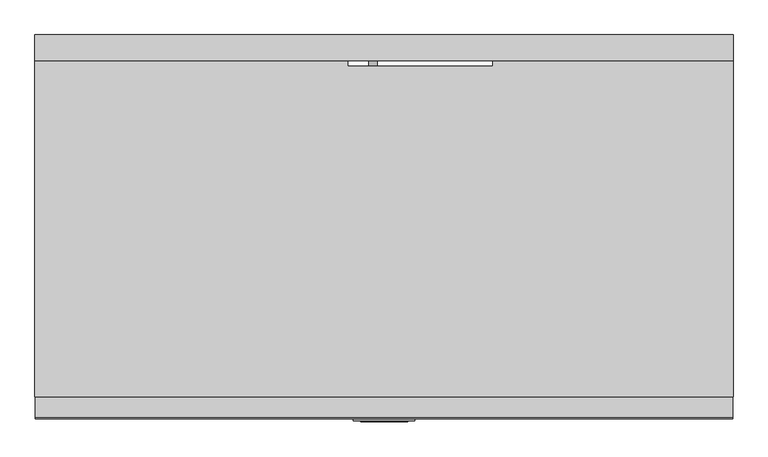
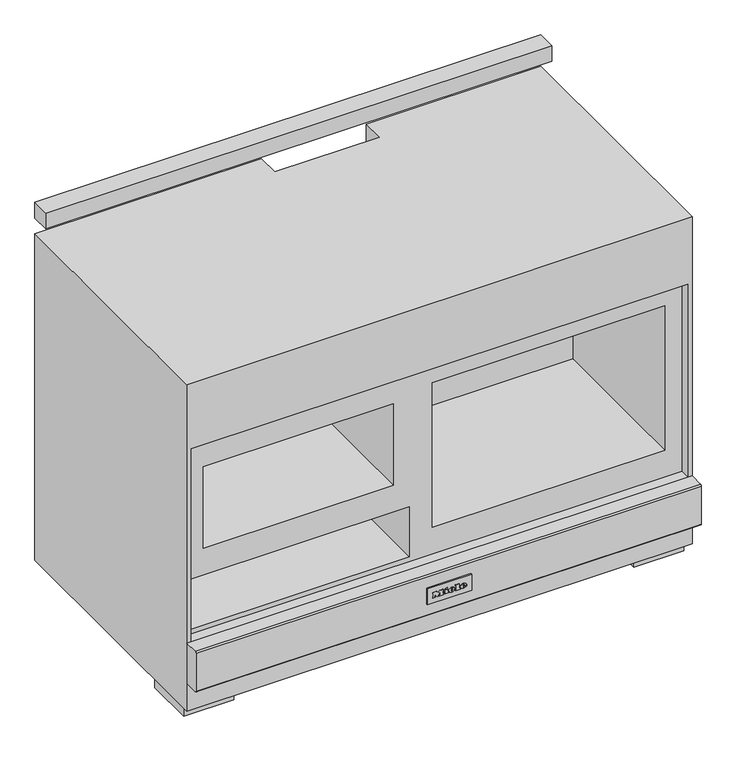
"""IFC4 building model written with IfcOpenShell, lengths in millimetres: proxy geometry, 11791690_USA_HR1955-3G_EDST-CLST : 25195581_USA_11791690_HR1955-3G_EDST-CLST."""

import ifcopenshell
import ifcopenshell.guid

model = None  # the IFC model being written
_history = None  # IfcOwnerHistory: only IFC2X3 demands one
_inside = {}  # id of a spatial element -> (the spatial element, [elements in it])
_under = {}  # id of a project, library or spatial element -> (it, [spatial elements below it])
_declared = {}  # id of a project -> (the project, [libraries it declares])
_typed = {}  # id of a type object -> (the type object, [elements of that type])
_made_of = {}  # id of a material, layer set ... -> (it, [elements and type objects made of it])


def new_model(schema):
    """Start an empty IFC model of exactly this schema.

    Asked for "IFC4X3", IfcOpenShell would pick the latest addendum, in which some entities
    have other attributes; the version numbers below select the first issue.
    IFC2X3 requires an IfcOwnerHistory on every rooted entity: one is made here for all.
    """
    global model, _history
    if schema == "IFC4X3":
        model = ifcopenshell.file(schema_version=(4, 3, 0, 0))
    else:
        model = ifcopenshell.file(schema=schema)
    _inside.clear()
    _under.clear()
    _declared.clear()
    _typed.clear()
    _made_of.clear()
    _history = None
    if model.schema == "IFC2X3":
        org = make("IfcOrganization", Name="unknown")
        user = make(
            "IfcPersonAndOrganization",
            ThePerson=make("IfcPerson", FamilyName="unknown"),
            TheOrganization=org,
        )
        app = make(
            "IfcApplication",
            ApplicationDeveloper=org,
            Version="unknown",
            ApplicationFullName="unknown",
            ApplicationIdentifier="unknown",
        )
        _history = make(
            "IfcOwnerHistory",
            OwningUser=user,
            OwningApplication=app,
            ChangeAction="ADDED",
            CreationDate=0,
        )
    return model


def make(cls, **values):
    """One entity of the class cls with the attributes given. An attribute that is None is left unset."""
    return model.create_entity(
        cls, **{name: value for name, value in values.items() if value is not None}
    )


def rooted(cls, **values):
    """An entity with a GlobalId (a new one), such as an element, a storey or a relation."""
    return make(cls, GlobalId=ifcopenshell.guid.new(), OwnerHistory=_history, **values)


def si_unit(unit_type, name, prefix=None):
    """IfcSIUnit, for example si_unit("LENGTHUNIT", "METRE", prefix="MILLI")."""
    return make("IfcSIUnit", UnitType=unit_type, Prefix=prefix, Name=name)


def assignment(units):
    """IfcUnitAssignment: the units of a project."""
    return None if units is None else make("IfcUnitAssignment", Units=units)


def point(xyz):
    """IfcCartesianPoint."""
    return None if xyz is None else make("IfcCartesianPoint", Coordinates=xyz)


def direction(xyz):
    """IfcDirection."""
    return None if xyz is None else make("IfcDirection", DirectionRatios=xyz)


def frame(location, z_axis=None, x_axis=None):
    """IfcAxis2Placement3D, a coordinate frame: its origin and axes. An axis left out is left unset."""
    return make(
        "IfcAxis2Placement3D",
        Location=point(location),
        Axis=direction(z_axis),
        RefDirection=direction(x_axis),
    )


def frame_2d(location, x_axis=None):
    """IfcAxis2Placement2D, a coordinate frame in the plane: its origin and x axis."""
    return make(
        "IfcAxis2Placement2D", Location=point(location), RefDirection=direction(x_axis)
    )


def origin():
    """The frame at (0, 0, 0) with its axes left unset."""
    return frame((0.0, 0.0, 0.0))


def origin_with_axes():
    """The frame at (0, 0, 0) with the z axis (0, 0, 1) and the x axis (1, 0, 0) written out."""
    return frame((0.0, 0.0, 0.0), z_axis=(0.0, 0.0, 1.0), x_axis=(1.0, 0.0, 0.0))


def place(relative_to, where):
    """IfcLocalPlacement: puts the frame where relative to a parent placement (None: the world)."""
    return make(
        "IfcLocalPlacement", PlacementRelTo=relative_to, RelativePlacement=where
    )


def context(
    kind, dimensions, precision=None, world=None, true_north=None, identifier=None
):
    """IfcGeometricRepresentationContext, for example the 3D "Model" context."""
    return make(
        "IfcGeometricRepresentationContext",
        ContextIdentifier=identifier,
        ContextType=kind,
        CoordinateSpaceDimension=dimensions,
        Precision=precision,
        WorldCoordinateSystem=world,
        TrueNorth=true_north,
    )


def project(units=None, contexts=None):
    """IfcProject with its units and contexts."""
    return rooted(
        "IfcProject",
        Name="project",
        RepresentationContexts=contexts,
        UnitsInContext=assignment(units),
    )


def spatial(cls, under=None, at=None, **own):
    """A site, building, storey or space (cls), placed at a placement, below another one or the project."""
    s = rooted(cls, ObjectPlacement=at, **own)
    if under is not None:
        _under.setdefault(under.id(), (under, []))[1].append(s)
    return s


def polyline(points):
    """IfcPolyline through the points."""
    return make("IfcPolyline", Points=[point(p) for p in points])


def circle_curve(where, radius):
    """IfcCircle in the frame where."""
    return make("IfcCircle", Position=where, Radius=radius)


def ellipse_curve(where, semi_axis1, semi_axis2):
    """IfcEllipse in the frame where."""
    return make(
        "IfcEllipse", Position=where, SemiAxis1=semi_axis1, SemiAxis2=semi_axis2
    )


def trimmed(basis, trim1, trim2, sense, master):
    """IfcTrimmedCurve: the piece of a basis curve between two trims."""
    return make(
        "IfcTrimmedCurve",
        BasisCurve=basis,
        Trim1=trim1,
        Trim2=trim2,
        SenseAgreement=sense,
        MasterRepresentation=master,
    )


def segment(curve, same_sense, transition):
    """IfcCompositeCurveSegment."""
    return make(
        "IfcCompositeCurveSegment",
        Transition=transition,
        SameSense=same_sense,
        ParentCurve=curve,
    )


def composite_curve(segments, self_intersect=None):
    """IfcCompositeCurve: segments joined end to end."""
    return make("IfcCompositeCurve", Segments=segments, SelfIntersect=self_intersect)


def outline(outer, holes=None, kind="AREA"):
    """IfcArbitraryClosedProfileDef: a profile drawn as a closed curve; with holes, ...WithVoids."""
    if holes is None:
        return make("IfcArbitraryClosedProfileDef", ProfileType=kind, OuterCurve=outer)
    return make(
        "IfcArbitraryProfileDefWithVoids",
        ProfileType=kind,
        OuterCurve=outer,
        InnerCurves=holes,
    )


def extrude(swept, where, along, depth):
    """IfcExtrudedAreaSolid: the profile swept, set in the frame where, extruded along a direction by depth."""
    return make(
        "IfcExtrudedAreaSolid",
        SweptArea=swept,
        Position=where,
        ExtrudedDirection=direction(along),
        Depth=depth,
    )


def faces_of(points, faces, orient=None, outer=None):
    """IfcFace entities. A face is a list of loops; a loop is a list of indices into points, from 0.

    orient and outer hold one flag for each loop. By default every Orientation is true, the
    first loop of a face is its IfcFaceOuterBound and the others are IfcFaceBound.
    """
    made = []
    for i, loops in enumerate(faces):
        bounds = []
        for j, loop in enumerate(loops):
            is_outer = j == 0 if outer is None else outer[i][j]
            bounds.append(
                make(
                    "IfcFaceOuterBound" if is_outer else "IfcFaceBound",
                    Bound=make("IfcPolyLoop", Polygon=[points[k] for k in loop]),
                    Orientation=True if orient is None else orient[i][j],
                )
            )
        made.append(make("IfcFace", Bounds=bounds))
    return made


def faceted_brep(points, faces, orient=None, outer=None, voids=None):
    """IfcFacetedBrep: a solid bounded by flat faces; with voids (closed shells), ...WithVoids."""
    shared = [point(p) for p in points]
    hull = make("IfcClosedShell", CfsFaces=faces_of(shared, faces, orient, outer))
    if voids is None:
        return make("IfcFacetedBrep", Outer=hull)
    return make(
        "IfcFacetedBrepWithVoids",
        Outer=hull,
        Voids=[
            make(cls, CfsFaces=faces_of(shared, fs, o, b)) for cls, fs, o, b in voids
        ],
    )


def shape(context_of_items, identifier, shape_type, items):
    """IfcShapeRepresentation: the items that make up one representation, for example the "Body"."""
    return make(
        "IfcShapeRepresentation",
        ContextOfItems=context_of_items,
        RepresentationIdentifier=identifier,
        RepresentationType=shape_type,
        Items=items,
    )


def source(mapping_origin, context_of_items, identifier, shape_type, items):
    """IfcRepresentationMap: a shape defined once, which mapped items show again and again."""
    return make(
        "IfcRepresentationMap",
        MappingOrigin=mapping_origin,
        MappedRepresentation=shape(context_of_items, identifier, shape_type, items),
    )


def transform(
    local_origin,
    x_axis=None,
    y_axis=None,
    z_axis=None,
    scale=None,
    scale2=None,
    scale3=None,
    uniform=True,
):
    """IfcCartesianTransformationOperator3D, or its non-uniform kind. x_axis, y_axis, z_axis: its Axis1, 2, 3."""
    if uniform:
        return make(
            "IfcCartesianTransformationOperator3D",
            Axis1=direction(x_axis),
            Axis2=direction(y_axis),
            LocalOrigin=point(local_origin),
            Scale=scale,
            Axis3=direction(z_axis),
        )
    return make(
        "IfcCartesianTransformationOperator3DnonUniform",
        Axis1=direction(x_axis),
        Axis2=direction(y_axis),
        LocalOrigin=point(local_origin),
        Scale=scale,
        Axis3=direction(z_axis),
        Scale2=scale2,
        Scale3=scale3,
    )


def mapped(mapping_source, mapping_target):
    """IfcMappedItem: shows the shape of a source again, moved by a transform."""
    return make(
        "IfcMappedItem", MappingSource=mapping_source, MappingTarget=mapping_target
    )


def made_of(thing, what):
    """Note that an element or type object is made of a material, layer set ...; save() writes the relation."""
    if what is not None:
        _made_of.setdefault(what.id(), (what, []))[1].append(thing)
    return thing


def element(
    cls,
    number,
    at=None,
    inside=None,
    cuts=None,
    type_object=None,
    material=None,
    context=None,
    identifier="Body",
    shape_type=None,
    held_by="IfcProductDefinitionShape",
    body=None,
    shapes=None,
    **own,
):
    """One element of the class cls, such as IfcWall. Its Tag is "e" and its number.

    at: its placement. inside: the storey or other place that contains it. cuts: it is an
    opening in that element (IfcRelVoidsElement). A single representation is given by context,
    identifier, shape_type and body (its items); several are given by shapes. held_by: the class
    of the entity that holds the representations. save() writes the other relations.
    """
    e = rooted(cls, Tag="e%d" % number, ObjectPlacement=at, **own)
    if body is not None:
        shapes = [shape(context, identifier, shape_type, body)]
    if shapes is not None:
        e.Representation = make(held_by, Representations=shapes)
    if inside is not None:
        _inside.setdefault(inside.id(), (inside, []))[1].append(e)
    if cuts is not None:
        rooted(
            "IfcRelVoidsElement", RelatingBuildingElement=cuts, RelatedOpeningElement=e
        )
    if type_object is not None:
        _typed.setdefault(type_object.id(), (type_object, []))[1].append(e)
    return made_of(e, material)


def aggregate(whole, parts):
    """IfcRelAggregates: a whole, such as a stair, and the parts it consists of."""
    return rooted("IfcRelAggregates", RelatingObject=whole, RelatedObjects=parts)


def save(model, path):
    """Write the relations noted so far, then the file.

    IfcRelAggregates (storeys below a building ...), IfcRelContainedInSpatialStructure (elements
    in a storey), IfcRelDefinesByType, IfcRelAssociatesMaterial and IfcRelDeclares: one each for
    every whole, place, type object, material and project.
    """
    for whole, parts in _under.values():
        aggregate(whole, parts)
    for where, things in _inside.values():
        rooted(
            "IfcRelContainedInSpatialStructure",
            RelatedElements=things,
            RelatingStructure=where,
        )
    for kind, things in _typed.values():
        rooted("IfcRelDefinesByType", RelatedObjects=things, RelatingType=kind)
    for what, things in _made_of.values():
        rooted("IfcRelAssociatesMaterial", RelatedObjects=things, RelatingMaterial=what)
    for by, libraries in _declared.values():
        rooted("IfcRelDeclares", RelatingContext=by, RelatedDefinitions=libraries)
    model.write(path)


def plane_surface(at):
    """IfcPlane: the flat surface through the origin of the frame at, square to its z axis."""
    return make("IfcPlane", Position=at)


def cylinder_surface(at, radius):
    """IfcCylindricalSurface: all points at the distance radius from the z axis of the frame at."""
    return make("IfcCylindricalSurface", Position=at, Radius=radius)


def revolved_surface(curve, axis_point, axis_direction):
    """IfcSurfaceOfRevolution: the curve turned about the line through axis_point along axis_direction."""
    return make(
        "IfcSurfaceOfRevolution",
        SweptCurve=make("IfcArbitraryOpenProfileDef", ProfileType="CURVE", Curve=curve),
        AxisPosition=make("IfcAxis1Placement", Location=point(axis_point), Axis=direction(axis_direction)),
    )


def extruded_surface(curve, direction_of_extrusion, depth):
    """IfcSurfaceOfLinearExtrusion: the curve pushed along a direction by depth."""
    return make(
        "IfcSurfaceOfLinearExtrusion",
        SweptCurve=make("IfcArbitraryOpenProfileDef", ProfileType="CURVE", Curve=curve),
        ExtrudedDirection=direction(direction_of_extrusion),
        Depth=depth,
    )


def advanced_brep(points, edges, surfaces, faces):
    """IfcAdvancedBrep: a solid bounded by faces that lie on surfaces and meet in shared edges.

    An edge is (start, end): straight between two places in points (the first is 0);
    or (start, end, curve); or (start, end, curve, False) where it runs against its curve.
    A face is (place in surfaces, loops), or (place, loops, False) where it looks against
    its surface's normal. A loop lists edges by number (the first is 1), with a minus sign
    where the edge is run from its end to its start. The first loop is the outer one.
    """
    corners = [point(p) for p in points]
    vertices = [make("IfcVertexPoint", VertexGeometry=c) for c in corners]
    made = []
    for start, end, *more in edges:
        made.append(
            make(
                "IfcEdgeCurve",
                EdgeStart=vertices[start],
                EdgeEnd=vertices[end],
                EdgeGeometry=more[0] if more else make("IfcPolyline", Points=[corners[start], corners[end]]),
                SameSense=more[1] if len(more) > 1 else True,
            )
        )
    hull = []
    for where, loops, *sense in faces:
        bounds = []
        for j, loop in enumerate(loops):
            ring = [make("IfcOrientedEdge", EdgeElement=made[abs(k) - 1], Orientation=k > 0) for k in loop]
            bounds.append(
                make(
                    "IfcFaceOuterBound" if j == 0 else "IfcFaceBound",
                    Bound=make("IfcEdgeLoop", EdgeList=ring),
                    Orientation=True,
                )
            )
        hull.append(make("IfcAdvancedFace", Bounds=bounds, FaceSurface=surfaces[where], SameSense=sense[0] if sense else True))
    return make("IfcAdvancedBrep", Outer=make("IfcClosedShell", CfsFaces=hull))


def specialty_equipment_3a3c5f90(model_context):
    return source(origin(), model_context, "Body", "SolidModel", [
        extrude(outline(composite_curve([segment(polyline([(-511.5941465, -31.8216074), (-507.5193946, -31.8216074), (-507.5193946, -33.0727848), (-510.3300756, -33.0727848), (-510.3300756, -34.8953779), (-509.0547934, -35.5734575), (-507.3554891, -35.8730907)]), True, "CONTINUOUS"), segment(trimmed(circle_curve(frame_2d((-507.2763582, -32.1835188)), 3.6904203), [point((-507.3554891, -35.8730907))], [point((-503.5917956, -31.975672))], True, "CARTESIAN"), True, "CONTINUOUS"), segment(trimmed(circle_curve(frame_2d((-507.7742118, -32.2116028)), 4.1890654), [point((-503.5917956, -31.975672))], [point((-507.3924604, -28.0399683))], True, "CARTESIAN"), True, "CONTINUOUS"), segment(trimmed(circle_curve(frame_2d((-507.6434541, -30.7827322)), 2.7542243), [point((-507.3924604, -28.0399683))], [point((-509.7311401, -28.9862582))], True, "CARTESIAN"), True, "CONTINUOUS"), segment(polyline([(-509.7311401, -28.9862582), (-510.2913432, -30.1348449), (-511.4545959, -29.808521), (-510.7222817, -28.1459412)]), True, "CONTINUOUS"), segment(trimmed(circle_curve(frame_2d((-507.5056573, -31.3038983)), 4.5077007), [point((-510.7222817, -28.1459412))], [point((-507.3478593, -26.7989604))], False, "CARTESIAN"), True, "CONTINUOUS"), segment(trimmed(circle_curve(frame_2d((-507.5297107, -32.0029797)), 5.2071956), [point((-507.3478593, -26.7989604))], [point((-502.3225151, -32.0029797))], False, "CARTESIAN"), True, "CONTINUOUS"), segment(trimmed(circle_curve(frame_2d((-507.5187023, -31.9634409)), 5.1963376), [point((-502.3225151, -32.0029797))], [point((-507.5187023, -37.1597785))], False, "CARTESIAN"), True, "CONTINUOUS"), segment(polyline([(-507.5187023, -37.1597785), (-509.5821579, -36.7823822), (-511.5941465, -35.5734575), (-511.5941465, -31.8216074)]), True, "CONTINUOUS")], self_intersect=False)), frame((0.0, 0.0, 753.0), z_axis=(0.0, 0.0, 1.0), x_axis=(1.0, 0.0, 0.0)), (0.0, 0.0, 1.0), 1.0),
        extrude(outline(composite_curve([segment(polyline([(-633.0, 203.0), (-633.0, 100.0), (-668.0, 100.0)]), True, "CONTINUOUS"), segment(trimmed(circle_curve(frame_2d((-668.0, 103.0)), 3.0), [point((-668.0, 100.0))], [point((-671.0, 103.0))], False, "CARTESIAN"), True, "CONTINUOUS"), segment(polyline([(-671.0, 103.0), (-671.0, 200.0)]), True, "CONTINUOUS"), segment(trimmed(circle_curve(frame_2d((-668.0, 200.0)), 3.0), [point((-671.0, 200.0))], [point((-668.0, 203.0))], False, "CARTESIAN"), True, "CONTINUOUS"), segment(polyline([(-668.0, 203.0), (-633.0, 203.0)]), True, "CONTINUOUS")], self_intersect=False)), frame((-608.5, 0.0, 0.0), z_axis=(1.0, 0.0, 0.0), x_axis=(0.0, 1.0, 0.0)), (0.0, 0.0, 1.0), 1217.0),
        extrude(outline(polyline([(424.9261097, -43.2846028), (417.6553153, -43.2846028), (417.6553153, -42.0259878), (423.6324687, -42.0259878), (423.6324687, -39.0398896), (417.9699511, -39.0398896), (417.9699511, -37.7868997), (423.6324687, -37.7868997), (423.6324687, -34.484481), (417.5234692, -34.484481), (417.5234692, -33.223126), (424.9261097, -33.223126), (424.9261097, -43.2846028)])), frame((0.0, 0.0, 74.0), z_axis=(0.0, 0.0, 1.0), x_axis=(1.0, 0.0, 0.0)), (0.0, 0.0, 1.0), 1.0),
        extrude(outline(polyline([(415.5939455, -43.2781045), (409.4083542, -43.2781045), (409.4083542, -42.0259878), (414.4083542, -42.0259878), (414.4083542, -33.223126), (415.5939455, -33.223126), (415.5939455, -43.2781045)])), frame((0.0, 0.0, 74.0), z_axis=(0.0, 0.0, 1.0), x_axis=(1.0, 0.0, 0.0)), (0.0, 0.0, 1.0), 1.0),
        extrude(outline(composite_curve([segment(trimmed(circle_curve(frame_2d((417.5, -39.0)), 7.5), [point((417.5, -46.5))], [point((417.5, -31.5))], False, "CARTESIAN"), True, "CONTINUOUS"), segment(trimmed(circle_curve(frame_2d((417.5, -39.0)), 7.5), [point((417.5, -31.5))], [point((417.5, -46.5))], False, "CARTESIAN"), True, "CONTINUOUS")], self_intersect=False)), frame((0.0, 0.0, 75.0), z_axis=(0.0, 0.0, 1.0), x_axis=(1.0, 0.0, 0.0)), (0.0, 0.0, 1.0), 30.0),
        extrude(outline(composite_curve([segment(trimmed(circle_curve(frame_2d((-514.5, -32.0)), 7.5), [point((-522.0, -32.0))], [point((-507.0, -32.0))], False, "CARTESIAN"), True, "CONTINUOUS"), segment(trimmed(circle_curve(frame_2d((-514.5, -32.0)), 7.5), [point((-507.0, -32.0))], [point((-522.0, -32.0))], False, "CARTESIAN"), True, "CONTINUOUS")], self_intersect=False)), frame((0.0, 0.0, 754.0), z_axis=(0.0, 0.0, 1.0), x_axis=(1.0, 0.0, 0.0)), (0.0, 0.0, 1.0), 30.0),
        extrude(outline(polyline([(755.9900117, -20.0376107), (766.0405487, -17.3032463), (766.0405487, -18.6010309), (757.3952189, -20.6941056), (766.0411296, -23.1946617), (766.0411296, -25.0615338), (757.4117226, -27.5845612), (766.0419182, -29.665026), (766.0419182, -30.9626989), (755.9984871, -28.2244126), (755.9984871, -26.8735976), (764.8308623, -24.1286268), (755.9900117, -21.5716905), (755.9900117, -20.0376107)])), frame((0.0, -25.0, 0.0), z_axis=(0.0, 1.0, 0.0), x_axis=(0.0, 0.0, 1.0)), (0.0, 0.0, 1.0), 1.0),
        extrude(outline(polyline([(756.0, -8.9829639), (766.0509015, -8.9829639), (766.0509015, -10.2409127), (761.1386151, -10.2409127), (766.0475587, -15.3904554), (766.0475587, -17.1455728), (761.9164775, -12.8179994), (756.0, -17.3019347), (756.0, -15.7701694), (761.0664133, -11.9304743), (759.4465471, -10.2392234), (756.0, -10.2392234), (756.0, -8.9829639)])), frame((0.0, -25.0, 0.0), z_axis=(0.0, 1.0, 0.0), x_axis=(0.0, 0.0, 1.0)), (0.0, 0.0, 1.0), 1.0),
        extrude(outline(composite_curve([segment(trimmed(circle_curve(frame_2d((761.0, -19.5)), 7.5), [point((761.0, -12.0))], [point((761.0, -27.0))], False, "CARTESIAN"), True, "CONTINUOUS"), segment(trimmed(circle_curve(frame_2d((761.0, -19.5)), 7.5), [point((761.0, -27.0))], [point((761.0, -12.0))], False, "CARTESIAN"), True, "CONTINUOUS")], self_intersect=False)), frame((0.0, -55.0, 0.0), z_axis=(0.0, 1.0, 0.0), x_axis=(0.0, 0.0, 1.0)), (0.0, 0.0, 1.0), 30.0),
        faceted_brep([(-609.5, 0.0, 862.0), (-609.5, -633.0, 862.0), (609.5, -633.0, 862.0), (609.5, 0.0, 862.0), (189.5, 0.0, 862.0), (189.5, -55.0, 862.0), (-63.5, -55.0, 862.0), (-63.5, 0.0, 862.0), (609.5, 0.0, 30.0), (609.5, -633.0, 30.0), (-609.5, -633.0, 30.0), (-609.5, 0.0, 30.0), (-598.5, 0.0, 30.0), (-598.5, -77.0, 30.0), (598.5, -77.0, 30.0), (598.5, 0.0, 30.0), (598.5, 0.0, 105.0), (189.5, 0.0, 105.0), (-63.5, 0.0, 105.0), (-459.5, 0.0, 105.0), (-459.5, 0.0, 784.0), (-547.5, 0.0, 784.0), (-547.5, 0.0, 105.0), (-598.5, 0.0, 105.0), (598.5, -633.0, 695.0), (598.5, -633.0, 203.0), (-598.5, -633.0, 203.0), (-598.5, -633.0, 695.0), (598.5, -608.0, 695.0), (-598.5, -608.0, 695.0), (-598.5, -608.0, 203.0), (598.5, -608.0, 203.0), (557.5, -608.0, 639.0), (557.5, -608.0, 271.0), (-2.5, -608.0, 271.0), (-2.5, -608.0, 639.0), (-58.5, -608.0, 342.0), (-58.5, -608.0, 215.0), (-592.5, -608.0, 215.0), (-592.5, -608.0, 342.0), (-96.5, -608.0, 618.0), (-96.5, -608.0, 410.0), (-554.5, -608.0, 410.0), (-554.5, -608.0, 618.0), (557.5, -224.0, 639.0), (-2.5, -224.0, 639.0), (-2.5, -224.0, 271.0), (557.5, -224.0, 271.0), (-96.5, -235.0, 618.0), (-554.5, -235.0, 618.0), (-554.5, -235.0, 410.0), (-96.5, -235.0, 410.0), (-58.5, -95.0, 342.0), (-592.5, -95.0, 342.0), (-592.5, -95.0, 215.0), (-58.5, -95.0, 215.0), (-598.5, -77.0, 105.0), (598.5, -77.0, 105.0), (-547.5, -55.0, 105.0), (-459.5, -55.0, 105.0), (-63.5, -55.0, 105.0), (189.5, -55.0, 105.0), (-547.5, -55.0, 784.0), (-459.5, -55.0, 784.0)], [[[0, 1, 2, 3, 4, 5, 6, 7]], [[8, 9, 10, 11, 12, 13, 14, 15]], [[3, 8, 15, 16, 17, 4]], [[11, 0, 7, 18, 19, 20, 21, 22, 23, 12]], [[1, 0, 11, 10]], [[2, 1, 10, 9], [24, 25, 26, 27]], [[3, 2, 9, 8]], [[28, 29, 30, 31], [32, 33, 34, 35], [36, 37, 38, 39], [40, 41, 42, 43]], [[28, 31, 25, 24]], [[31, 30, 26, 25]], [[30, 29, 27, 26]], [[29, 28, 24, 27]], [[44, 45, 46, 47]], [[44, 47, 33, 32]], [[47, 46, 34, 33]], [[46, 45, 35, 34]], [[45, 44, 32, 35]], [[48, 49, 50, 51]], [[51, 50, 42, 41]], [[50, 49, 43, 42]], [[49, 48, 40, 43]], [[52, 53, 54, 55]], [[52, 55, 37, 36]], [[55, 54, 38, 37]], [[54, 53, 39, 38]], [[53, 52, 36, 39]], [[56, 57, 14, 13]], [[57, 56, 23, 22, 58, 59, 19, 18, 60, 61, 17, 16]], [[57, 16, 15, 14]], [[23, 56, 13, 12]], [[62, 63, 59, 58]], [[5, 61, 60, 6]], [[6, 60, 18, 7]], [[63, 62, 21, 20]], [[63, 20, 19, 59]], [[21, 62, 58, 22]], [[48, 51, 41, 40]], [[61, 5, 4, 17]]]),
        extrude(outline(composite_curve([segment(trimmed(circle_curve(frame_2d((-152.0, 40.0)), 40.0), [point((-113.2701665, 30.0))], [point((-190.7298335, 30.0))], False, "CARTESIAN"), True, "CONTINUOUS"), segment(polyline([(-190.7298335, 30.0), (-113.2701665, 30.0)]), True, "CONTINUOUS")], self_intersect=False)), frame((434.5, 0.0, 0.0), z_axis=(1.0, 0.0, 0.0), x_axis=(0.0, 1.0, 0.0)), (0.0, 0.0, 1.0), 28.0),
        extrude(outline(polyline([(-482.5, -489.0), (-482.5, -609.0), (-602.5, -609.0), (-602.5, -489.0), (-482.5, -489.0)])), origin_with_axes(), (0.0, 0.0, 1.0), 30.0),
        extrude(outline(polyline([(602.5, -489.0), (602.5, -609.0), (482.5, -609.0), (482.5, -489.0), (602.5, -489.0)])), origin_with_axes(), (0.0, 0.0, 1.0), 30.0),
        advanced_brep(
        [(32.17, -676.0, 148.1995), (32.17, -676.0, 149.563), (41.2015, -676.0, 149.563), (25.4875, -676.0, 149.563), (29.2, -676.0, 145.0), (40.972, -676.0, 148.1995), (36.895, -676.0, 148.1995), (33.682, -676.0, 146.6875), (32.17, -676.0, 151.291), (32.17, -676.0, 152.7625), (34.4785, -676.0, 152.7625), (34.4785, -676.0, 151.291), (32.17, -675.0, 148.1995), (33.682, -675.0, 146.6875), (36.895, -675.0, 148.1995), (40.972, -675.0, 148.1995), (29.2, -675.0, 145.0), (25.4875, -675.0, 149.563), (41.2015, -675.0, 149.563), (32.17, -675.0, 149.563), (32.17, -675.0, 151.291), (34.4785, -675.0, 151.291), (34.4785, -675.0, 152.7625), (32.17, -675.0, 152.7625)],
        [
            (0, 1),
            (1, 2),
            (2, 3, ellipse_curve(frame((33.3445, -676.0, 149.563), z_axis=(0.0, -1.0, 0.0), x_axis=(-1.0, 0.0, 0.0)), 7.857, 6.4935)),
            (3, 4, circle_curve(frame((30.7120736, -676.0, 150.022), z_axis=(0.0, -1.0, 0.0), x_axis=(0.0, 0.0, -1.0)), 5.2446974)),
            (4, 5, circle_curve(frame((33.1872142, -676.0, 153.586), z_axis=(0.0, -1.0, 0.0), x_axis=(0.0, 0.0, -1.0)), 9.46664)),
            (5, 6),
            (6, 7, circle_curve(frame((34.3419118, -676.0, 149.455), z_axis=(0.0, 1.0, 0.0), x_axis=(0.0, 0.0, -1.0)), 2.8450905)),
            (7, 0, circle_curve(frame((33.682, -676.0, 148.1995), z_axis=(0.0, 1.0, 0.0), x_axis=(0.0, 0.0, -1.0)), 1.512)),
            (8, 9),
            (9, 10, circle_curve(frame((33.32425, -676.0, 152.7625), z_axis=(0.0, 1.0, 0.0), x_axis=(0.0, 0.0, -1.0)), 1.15425)),
            (10, 11),
            (11, 8),
            (12, 13, circle_curve(frame((33.682, -675.0, 148.1995), z_axis=(0.0, -1.0, 0.0), x_axis=(0.0, 0.0, -1.0)), 1.512)),
            (13, 14, circle_curve(frame((34.3419118, -675.0, 149.455), z_axis=(0.0, -1.0, 0.0), x_axis=(0.0, 0.0, -1.0)), 2.8450905)),
            (14, 15),
            (15, 16, circle_curve(frame((33.1872142, -675.0, 153.586), z_axis=(0.0, 1.0, 0.0), x_axis=(0.0, 0.0, -1.0)), 9.46664)),
            (16, 17, circle_curve(frame((30.7120736, -675.0, 150.022), z_axis=(0.0, 1.0, 0.0), x_axis=(0.0, 0.0, -1.0)), 5.2446974)),
            (17, 18, ellipse_curve(frame((33.3445, -675.0, 149.563), z_axis=(0.0, 1.0, 0.0), x_axis=(-1.0, 0.0, 0.0)), 7.857, 6.4935)),
            (18, 19),
            (19, 12),
            (20, 21),
            (21, 22),
            (22, 23, circle_curve(frame((33.32425, -675.0, 152.7625), z_axis=(0.0, -1.0, 0.0), x_axis=(0.0, 0.0, -1.0)), 1.15425)),
            (23, 20),
            (0, 12),
            (19, 1),
            (18, 2),
            (5, 15),
            (14, 6),
            (17, 3),
            (13, 7),
            (16, 4),
            (8, 20),
            (23, 9),
            (22, 10),
            (21, 11),
        ],
        [
            plane_surface(frame((32.17, -676.0, 149.563), z_axis=(0.0, -1.0, 0.0), x_axis=(0.0, 0.0, 1.0))),
            plane_surface(frame((32.17, -675.0, 149.563), z_axis=(0.0, 1.0, 0.0), x_axis=(0.0, 0.0, -1.0))),
            plane_surface(frame((32.17, -676.0, 148.1995), z_axis=(1.0, 0.0, 0.0), x_axis=(0.0, 1.0, 0.0))),
            plane_surface(frame((32.17, -676.0, 149.563), z_axis=(0.0, 0.0, -1.0), x_axis=(0.0, 1.0, 0.0))),
            plane_surface(frame((40.972, -676.0, 148.1995), z_axis=(0.0, 0.0, 1.0), x_axis=(0.0, 1.0, 0.0))),
            extruded_surface(trimmed(ellipse_curve(frame((33.3445, -674.0, 149.563), z_axis=(0.0, -1.0, 0.0), x_axis=(-1.0, 0.0, 0.0)), 7.857, 6.4935), [point((41.2015, -674.0, 149.563))], [point((25.4875, -674.0, 149.563))], True, "CARTESIAN"), (0.0, -1.0, 0.0), 1.0),
            revolved_surface(polyline([(34.3419118, -675.0, 146.60990950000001), (34.3419118, -676.0, 146.60990950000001)]), (34.3419118, -675.0, 149.455), (0.0, 1.0, 0.0)),
            revolved_surface(polyline([(33.682, -675.0, 146.6875), (33.682, -676.0, 146.6875)]), (33.682, -675.0, 148.1995), (0.0, 1.0, 0.0)),
            cylinder_surface(frame((30.7120736, -675.0, 150.022), z_axis=(0.0, -1.0, 0.0), x_axis=(0.0, 0.0, -1.0)), 5.2446974),
            cylinder_surface(frame((33.1872142, -675.0, 153.586), z_axis=(0.0, -1.0, 0.0), x_axis=(0.0, 0.0, -1.0)), 9.46664),
            plane_surface(frame((32.17, -676.0, 151.291), z_axis=(1.0, 0.0, 0.0), x_axis=(0.0, 1.0, 0.0))),
            revolved_surface(polyline([(33.32425, -675.0, 151.60825), (33.32425, -676.0, 151.60825)]), (33.32425, -675.0, 152.7625), (0.0, 1.0, 0.0)),
            plane_surface(frame((34.4785, -676.0, 152.7625), z_axis=(-1.0, 0.0, 0.0), x_axis=(0.0, 1.0, 0.0))),
            plane_surface(frame((34.4785, -676.0, 151.291), z_axis=(0.0, 0.0, 1.0), x_axis=(0.0, 1.0, 0.0))),
        ],
        [
            (0, [[1, 2, 3, 4, 5, 6, 7, 8], [9, 10, 11, 12]]),
            (1, [[13, 14, 15, 16, 17, 18, 19, 20], [21, 22, 23, 24]]),
            (2, [[-1, 25, -20, 26]]),
            (3, [[-2, -26, -19, 27]]),
            (4, [[-6, 28, -15, 29]]),
            (5, [[-3, -27, -18, 30]]),
            (6, [[-7, -29, -14, 31]]),
            (7, [[-8, -31, -13, -25]]),
            (8, [[-4, -30, -17, 32]]),
            (9, [[-5, -32, -16, -28]]),
            (10, [[-9, 33, -24, 34]]),
            (11, [[-10, -34, -23, 35]]),
            (12, [[-11, -35, -22, 36]]),
            (13, [[-12, -36, -21, -33]]),
        ],
    ),
        advanced_brep(
        [(3.9955, -676.0, 148.1995), (3.9955, -676.0, 149.563), (13.027, -676.0, 149.563), (-2.687, -676.0, 149.563), (1.0255, -676.0, 145.0), (12.7975, -676.0, 148.1995), (8.7205, -676.0, 148.1995), (5.5075, -676.0, 146.6875), (3.9955, -676.0, 151.291), (3.9955, -676.0, 152.7625), (6.304, -676.0, 152.7625), (6.304, -676.0, 151.291), (3.9955, -675.0, 148.1995), (5.5075, -675.0, 146.6875), (8.7205, -675.0, 148.1995), (12.7975, -675.0, 148.1995), (1.0255, -675.0, 145.0), (-2.687, -675.0, 149.563), (13.027, -675.0, 149.563), (3.9955, -675.0, 149.563), (3.9955, -675.0, 151.291), (6.304, -675.0, 151.291), (6.304, -675.0, 152.7625), (3.9955, -675.0, 152.7625)],
        [
            (0, 1),
            (1, 2),
            (2, 3, ellipse_curve(frame((5.17, -676.0, 149.563), z_axis=(0.0, -1.0, 0.0), x_axis=(-1.0, 0.0, 0.0)), 7.857, 6.4935)),
            (3, 4, circle_curve(frame((2.5375736, -676.0, 150.022), z_axis=(0.0, -1.0, 0.0), x_axis=(0.0, 0.0, -1.0)), 5.2446974)),
            (4, 5, circle_curve(frame((5.0127142, -676.0, 153.586), z_axis=(0.0, -1.0, 0.0), x_axis=(0.0, 0.0, -1.0)), 9.46664)),
            (5, 6),
            (6, 7, circle_curve(frame((6.1674118, -676.0, 149.455), z_axis=(0.0, 1.0, 0.0), x_axis=(0.0, 0.0, -1.0)), 2.8450905)),
            (7, 0, circle_curve(frame((5.5075, -676.0, 148.1995), z_axis=(0.0, 1.0, 0.0), x_axis=(0.0, 0.0, -1.0)), 1.512)),
            (8, 9),
            (9, 10, circle_curve(frame((5.14975, -676.0, 152.7625), z_axis=(0.0, 1.0, 0.0), x_axis=(0.0, 0.0, -1.0)), 1.15425)),
            (10, 11),
            (11, 8),
            (12, 13, circle_curve(frame((5.5075, -675.0, 148.1995), z_axis=(0.0, -1.0, 0.0), x_axis=(0.0, 0.0, -1.0)), 1.512)),
            (13, 14, circle_curve(frame((6.1674118, -675.0, 149.455), z_axis=(0.0, -1.0, 0.0), x_axis=(0.0, 0.0, -1.0)), 2.8450905)),
            (14, 15),
            (15, 16, circle_curve(frame((5.0127142, -675.0, 153.586), z_axis=(0.0, 1.0, 0.0), x_axis=(0.0, 0.0, -1.0)), 9.46664)),
            (16, 17, circle_curve(frame((2.5375736, -675.0, 150.022), z_axis=(0.0, 1.0, 0.0), x_axis=(0.0, 0.0, -1.0)), 5.2446974)),
            (17, 18, ellipse_curve(frame((5.17, -675.0, 149.563), z_axis=(0.0, 1.0, 0.0), x_axis=(-1.0, 0.0, 0.0)), 7.857, 6.4935)),
            (18, 19),
            (19, 12),
            (20, 21),
            (21, 22),
            (22, 23, circle_curve(frame((5.14975, -675.0, 152.7625), z_axis=(0.0, -1.0, 0.0), x_axis=(0.0, 0.0, -1.0)), 1.15425)),
            (23, 20),
            (0, 12),
            (19, 1),
            (18, 2),
            (5, 15),
            (14, 6),
            (17, 3),
            (13, 7),
            (16, 4),
            (8, 20),
            (23, 9),
            (22, 10),
            (21, 11),
        ],
        [
            plane_surface(frame((3.9955, -676.0, 149.563), z_axis=(0.0, -1.0, 0.0), x_axis=(0.0, 0.0, 1.0))),
            plane_surface(frame((3.9955, -675.0, 149.563), z_axis=(0.0, 1.0, 0.0), x_axis=(0.0, 0.0, -1.0))),
            plane_surface(frame((3.9955, -676.0, 148.1995), z_axis=(1.0, 0.0, 0.0), x_axis=(0.0, 1.0, 0.0))),
            plane_surface(frame((3.9955, -676.0, 149.563), z_axis=(0.0, 0.0, -1.0), x_axis=(0.0, 1.0, 0.0))),
            plane_surface(frame((12.7975, -676.0, 148.1995), z_axis=(0.0, 0.0, 1.0), x_axis=(0.0, 1.0, 0.0))),
            extruded_surface(trimmed(ellipse_curve(frame((5.17, -674.0, 149.563), z_axis=(0.0, -1.0, 0.0), x_axis=(-1.0, 0.0, 0.0)), 7.857, 6.4935), [point((13.027, -674.0, 149.563))], [point((-2.687, -674.0, 149.563))], True, "CARTESIAN"), (0.0, -1.0, 0.0), 1.0),
            revolved_surface(polyline([(6.1674118, -675.0, 146.60990950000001), (6.1674118, -676.0, 146.60990950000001)]), (6.1674118, -675.0, 149.455), (0.0, 1.0, 0.0)),
            revolved_surface(polyline([(5.5075, -675.0, 146.6875), (5.5075, -676.0, 146.6875)]), (5.5075, -675.0, 148.1995), (0.0, 1.0, 0.0)),
            cylinder_surface(frame((2.5375736, -675.0, 150.022), z_axis=(0.0, -1.0, 0.0), x_axis=(0.0, 0.0, -1.0)), 5.2446974),
            cylinder_surface(frame((5.0127142, -675.0, 153.586), z_axis=(0.0, -1.0, 0.0), x_axis=(0.0, 0.0, -1.0)), 9.46664),
            plane_surface(frame((3.9955, -676.0, 151.291), z_axis=(1.0, 0.0, 0.0), x_axis=(0.0, 1.0, 0.0))),
            revolved_surface(polyline([(5.14975, -675.0, 151.60825), (5.14975, -676.0, 151.60825)]), (5.14975, -675.0, 152.7625), (0.0, 1.0, 0.0)),
            plane_surface(frame((6.304, -676.0, 152.7625), z_axis=(-1.0, 0.0, 0.0), x_axis=(0.0, 1.0, 0.0))),
            plane_surface(frame((6.304, -676.0, 151.291), z_axis=(0.0, 0.0, 1.0), x_axis=(0.0, 1.0, 0.0))),
        ],
        [
            (0, [[1, 2, 3, 4, 5, 6, 7, 8], [9, 10, 11, 12]]),
            (1, [[13, 14, 15, 16, 17, 18, 19, 20], [21, 22, 23, 24]]),
            (2, [[-1, 25, -20, 26]]),
            (3, [[-2, -26, -19, 27]]),
            (4, [[-6, 28, -15, 29]]),
            (5, [[-3, -27, -18, 30]]),
            (6, [[-7, -29, -14, 31]]),
            (7, [[-8, -31, -13, -25]]),
            (8, [[-4, -30, -17, 32]]),
            (9, [[-5, -32, -16, -28]]),
            (10, [[-9, 33, -24, 34]]),
            (11, [[-10, -34, -23, 35]]),
            (12, [[-11, -35, -22, 36]]),
            (13, [[-12, -36, -21, -33]]),
        ],
    ),
        extrude(outline(polyline([(157.7035, -10.76), (155.5165, -9.734), (157.6495, -5.1575), (159.8365, -6.17), (157.7035, -10.76)])), frame((0.0, -676.0, 0.0), z_axis=(0.0, 1.0, 0.0), x_axis=(0.0, 0.0, 1.0)), (0.0, 0.0, 1.0), 1.0),
        extrude(outline(polyline([(155.2195, -14.0945), (152.803, -14.0945), (152.803, -12.488), (147.268, -12.488), (147.268, -14.0945), (145.0, -14.0945), (145.0, -3.443), (147.268, -3.443), (147.268, -5.009), (155.2195, -5.009), (155.2195, -14.0945)])), frame((0.0, -676.0, 0.0), z_axis=(0.0, 1.0, 0.0), x_axis=(0.0, 0.0, 1.0)), (0.0, 0.0, 1.0), 1.0),
        extrude(outline(polyline([(156.2995, 13.783), (156.2995, 15.403), (147.268, 15.403), (147.268, 13.783), (145.0, 13.783), (145.0, 24.7315), (147.268, 24.7315), (147.268, 23.071), (158.5, 23.071), (158.5, 13.783), (156.2995, 13.783)])), frame((0.0, -676.0, 0.0), z_axis=(0.0, 1.0, 0.0), x_axis=(0.0, 0.0, 1.0)), (0.0, 0.0, 1.0), 1.0),
        extrude(outline(polyline([(156.2995, -41.0), (156.2995, -39.3665), (147.268, -39.3665), (147.268, -41.0), (145.0, -41.0), (145.0, -35.06), (147.268, -35.06), (147.268, -36.68), (152.9756247, -36.68), (145.0, -30.6455), (153.2527223, -24.584), (147.268, -24.584), (147.268, -26.2445), (145.0, -26.2445), (145.0, -15.4715), (147.268, -15.4715), (147.268, -17.186), (156.2995, -17.186), (156.2995, -15.4715), (158.5, -15.4715), (158.5, -23.693), (153.4375, -27.635), (158.5, -31.5905), (158.5, -41.0), (156.2995, -41.0)])), frame((0.0, -676.0, 0.0), z_axis=(0.0, 1.0, 0.0), x_axis=(0.0, 0.0, 1.0)), (0.0, 0.0, 1.0), 1.0),
        extrude(outline(polyline([(609.5, 0.0), (609.5, -45.0), (-609.5, -45.0), (-609.5, 0.0), (609.5, 0.0)])), frame((0.0, 0.0, 902.0), z_axis=(0.0, 0.0, 1.0), x_axis=(1.0, 0.0, 0.0)), (0.0, 0.0, 1.0), 40.0),
        extrude(outline(composite_curve([segment(polyline([(-671.0, 131.0), (-674.5, 131.0)]), True, "CONTINUOUS"), segment(trimmed(circle_curve(frame_2d((-465.0137328, 151.5)), 210.4869263), [point((-674.5, 131.0))], [point((-674.5, 172.0))], False, "CARTESIAN"), True, "CONTINUOUS"), segment(polyline([(-674.5, 172.0), (-671.0, 172.0), (-671.0, 131.0)]), True, "CONTINUOUS")], self_intersect=False)), frame((-53.5, 0.0, 0.0), z_axis=(1.0, 0.0, 0.0), x_axis=(0.0, 1.0, 0.0)), (0.0, 0.0, 1.0), 107.0),
    ])


if __name__ == "__main__":
    model = new_model("IFC4")
    model_context = context("Model", 3, world=origin())
    ifc_project = project(units=[si_unit("LENGTHUNIT", "METRE", prefix="MILLI")], contexts=[model_context])
    site = spatial("IfcSite", under=ifc_project)
    building = spatial("IfcBuilding", under=site)
    placement = place(None, origin())
    specialty_equipment_shape = specialty_equipment_3a3c5f90(model_context)
    element("IfcBuildingElementProxy", 1, Name="11791690_USA_HR1955-3G_EDST-CLST : 25195581_USA_11791690_HR1955-3G_EDST-CLST", ObjectType="11791690_USA_HR1955-3G_EDST-CLST : 25195581_USA_11791690_HR1955-3G_EDST-CLST", at=placement, inside=building, context=model_context, shape_type="MappedRepresentation", body=[
        mapped(specialty_equipment_shape, transform((0.0, 0.0, 0.0), x_axis=(1.0, 0.0, 0.0), y_axis=(0.0, 1.0, 0.0), z_axis=(0.0, 0.0, 1.0))),
    ])
    save(model, "model.ifc")
